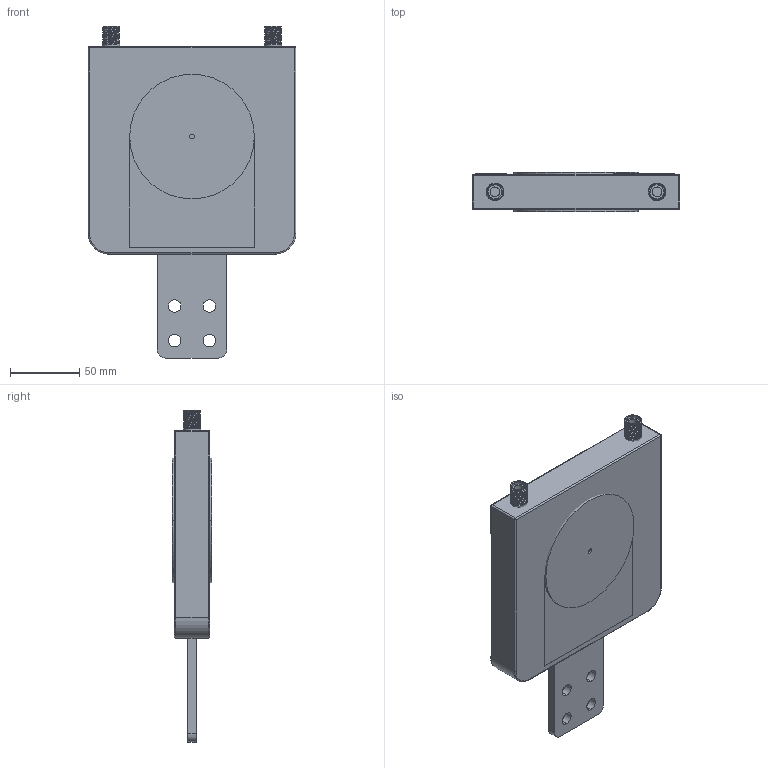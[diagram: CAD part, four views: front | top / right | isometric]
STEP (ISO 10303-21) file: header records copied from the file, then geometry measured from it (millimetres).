
FILE_DESCRIPTION (( 'STEP AP214' ), '1' );
FILE_NAME ('任芲90.STEP', '2025-08-06T15:56:36', ( '' ), ( '' ), 'SwSTEP 2.0', 'SolidWorks 2024', '' );
FILE_SCHEMA (( 'AUTOMOTIVE_DESIGN' ));
Length unit declared in the file: millimetre
Products named in the file (11): керамика; пластик; шина; ИОЖ_90; крышка верхняя; корпус; нагреватель; ИОЖлого (1); крышка нижняя; кастомный_ниппель; ЛИРАC (1)
Assembly tree (13 placements, depth 2):
  ИОЖ_90
    корпус
    керамика  x2
    нагреватель  x2
    шина
    пластик
    ИОЖлого (1)
    ЛИРАC (1)
    кастомный_ниппель  x2
    крышка верхняя
    крышка нижняя
Bounding box: 150 x 28.5 x 239.85 mm (x, y, z)
Volume: 878456.3 mm3; surface area: 320960.1 mm2
Topology: 13 solids, 13 shells, 1109 faces, 2954 edges, 1910 vertices
Faces by surface type: plane 573, cylinder 486, cone 20, torus 20, bspline 6, sphere 4
Entity records: 35621 total; most frequent: CARTESIAN_POINT 8390, DIRECTION 5775, ORIENTED_EDGE 5598, EDGE_CURVE 2799, AXIS2_PLACEMENT_3D 1984, VERTEX_POINT 1811, LINE 1807, VECTOR 1807
